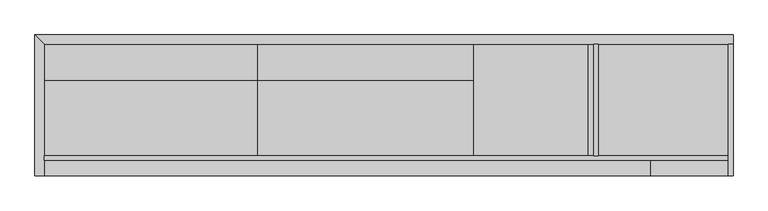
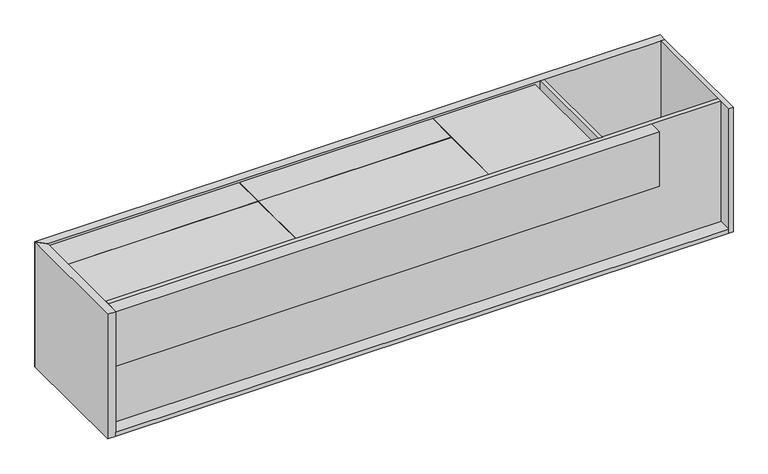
"""IFC4 building model written with IfcOpenShell, lengths in millimetres: proxy geometry, AERO^OFFICE 5_REAR LOW CREDENZA-PARTS SOLID."""

from ifc_helpers import new_model, si_unit, frame, origin, place, context, project, spatial, polyline, outline, extrude, source, transform, mapped, element, save


def generic_models_f7374749(model_context):
    return source(origin(), model_context, "Body", "SweptSolid", [
        extrude(outline(polyline([(2336.8, -463.55), (2317.75, -463.55), (2317.75, 0.0), (2336.8, 0.0), (2336.8, -463.55)])), frame((0.0, 0.0, -590.55), z_axis=(0.0, 0.0, 1.0), x_axis=(1.0, 0.0, 0.0)), (0.0, 0.0, 1.0), 590.55),
        extrude(outline(polyline([(1828.8, -463.55), (1809.75, -463.55), (1809.75, 0.0), (1828.8, 0.0), (1828.8, -463.55)])), frame((0.0, 0.0, -590.55), z_axis=(0.0, 0.0, 1.0), x_axis=(1.0, 0.0, 0.0)), (0.0, 0.0, 1.0), 558.8),
        extrude(outline(polyline([(1817.688262, -482.6), (924.71875, -482.6), (924.71875, -152.4), (1817.688262, -152.4), (1817.688262, -482.6)])), frame((0.0, 0.0, -28.575), z_axis=(0.0, 0.0, 1.0), x_axis=(1.0, 0.0, 0.0)), (0.0, 0.0, 1.0), 19.05),
        extrude(outline(polyline([(933.45, -463.55), (914.4, -463.55), (914.4, 0.0), (933.45, 0.0), (933.45, -463.55)])), frame((0.0, 0.0, -590.55), z_axis=(0.0, 0.0, 1.0), x_axis=(1.0, 0.0, 0.0)), (0.0, 0.0, 1.0), 558.8),
        extrude(outline(polyline([(1820.069512, 9.525), (2293.144512, 9.525), (2293.144512, -482.6), (1820.069512, -482.6), (1820.069512, 9.525)])), frame((0.0, 0.0, -28.575), z_axis=(0.0, 0.0, 1.0), x_axis=(1.0, 0.0, 0.0)), (0.0, 0.0, 1.0), 19.05),
        extrude(outline(polyline([(2876.55, 0.0), (2895.6, 0.0), (2895.6, -546.1), (2876.55, -546.1), (2876.55, 0.0)])), frame((0.0, 0.0, -609.6), z_axis=(0.0, 0.0, 1.0), x_axis=(1.0, 0.0, 0.0)), (0.0, 0.0, 1.0), 609.6),
        extrude(outline(polyline([(38.1, -546.1), (38.1, 0.0), (2876.55, 0.0), (2876.55, -546.1), (38.1, -546.1)])), frame((0.0, 0.0, -609.6), z_axis=(0.0, 0.0, 1.0), x_axis=(1.0, 0.0, 0.0)), (0.0, 0.0, 1.0), 19.05),
        extrude(outline(polyline([(922.3375, 9.525), (922.3375, -150.01875), (28.575, -150.01875), (28.575, 9.525), (922.3375, 9.525)])), frame((0.0, 0.0, -28.575), z_axis=(0.0, 0.0, 1.0), x_axis=(1.0, 0.0, 0.0)), (0.0, 0.0, 1.0), 19.05),
        extrude(outline(polyline([(38.1, -482.6), (38.1, -463.55), (2876.55, -463.55), (2876.55, -482.6), (38.1, -482.6)])), frame((0.0, 0.0, -590.55), z_axis=(0.0, 0.0, 1.0), x_axis=(1.0, 0.0, 0.0)), (0.0, 0.0, 1.0), 590.55),
        extrude(outline(polyline([(28.575, -152.4), (922.3375, -152.4), (922.3375, -482.6), (28.575, -482.6), (28.575, -152.4)])), frame((0.0, 0.0, -28.575), z_axis=(0.0, 0.0, 1.0), x_axis=(1.0, 0.0, 0.0)), (0.0, 0.0, 1.0), 19.05),
        extrude(outline(polyline([(0.0, 38.1), (38.1, 0.0), (38.1, -546.1), (0.0, -546.1), (0.0, 38.1)])), frame((0.0, 0.0, -609.6), z_axis=(0.0, 0.0, 1.0), x_axis=(1.0, 0.0, 0.0)), (0.0, 0.0, 1.0), 609.6),
        extrude(outline(polyline([(1817.688262, 9.525), (1817.688262, -150.01875), (924.71875, -150.01875), (924.71875, 9.525), (1817.688262, 9.525)])), frame((0.0, 0.0, -28.575), z_axis=(0.0, 0.0, 1.0), x_axis=(1.0, 0.0, 0.0)), (0.0, 0.0, 1.0), 19.05),
        extrude(outline(polyline([(38.1, 0.0), (0.0, 38.1), (2895.6, 38.1), (2895.6, 0.0), (38.1, 0.0)])), frame((0.0, 0.0, -609.6), z_axis=(0.0, 0.0, 1.0), x_axis=(1.0, 0.0, 0.0)), (0.0, 0.0, 1.0), 609.6),
        extrude(outline(polyline([(38.1, -482.6), (2552.7, -482.6), (2552.7, -546.1), (38.1, -546.1), (38.1, -482.6)])), frame((0.0, 0.0, -266.7), z_axis=(0.0, 0.0, 1.0), x_axis=(1.0, 0.0, 0.0)), (0.0, 0.0, 1.0), 266.7),
    ])


if __name__ == "__main__":
    model = new_model("IFC4")
    model_context = context("Model", 3, world=origin())
    ifc_project = project(units=[si_unit("LENGTHUNIT", "METRE", prefix="MILLI")], contexts=[model_context])
    site = spatial("IfcSite", under=ifc_project)
    building = spatial("IfcBuilding", under=site)
    placement = place(None, origin())
    generic_models_shape = generic_models_f7374749(model_context)
    element("IfcBuildingElementProxy", 1, Name="AERO^OFFICE 5_REAR LOW CREDENZA-PARTS SOLID", ObjectType="AERO^OFFICE 5_REAR LOW CREDENZA-PARTS SOLID", at=placement, inside=building, context=model_context, shape_type="MappedRepresentation", body=[
        mapped(generic_models_shape, transform((0.0, 0.0, 0.0), x_axis=(1.0, 0.0, 0.0), y_axis=(0.0, 1.0, 0.0), z_axis=(0.0, 0.0, 1.0))),
    ])
    save(model, "model.ifc")
